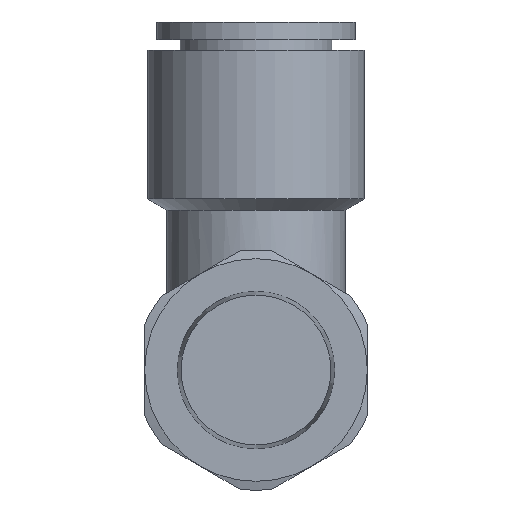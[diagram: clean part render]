
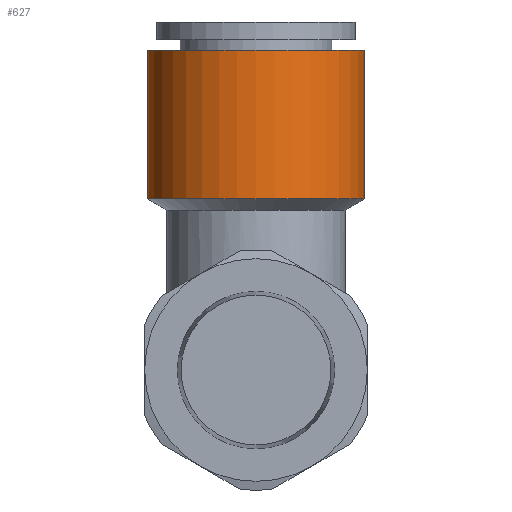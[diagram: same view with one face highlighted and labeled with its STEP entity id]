
A CAD part, front view. The second image highlights one B-rep face of the part: STEP entity #627.
In plain terms, the highlighted cylindrical face has radius 9.25 mm (diameter 18.5 mm), a full revolution.
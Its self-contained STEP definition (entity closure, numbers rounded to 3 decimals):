
#71=CYLINDRICAL_SURFACE('',#713,9.25);
#105=CIRCLE('',#712,9.25);
#106=CIRCLE('',#714,9.25);
#193=ORIENTED_EDGE('',*,*,#340,.F.);
#194=ORIENTED_EDGE('',*,*,#339,.T.);
#339=EDGE_CURVE('',#415,#415,#105,.T.);
#340=EDGE_CURVE('',#416,#416,#106,.T.);
#415=VERTEX_POINT('',#1123);
#416=VERTEX_POINT('',#1126);
#499=EDGE_LOOP('',(#193));
#500=EDGE_LOOP('',(#194));
#561=FACE_BOUND('',#499,.T.);
#562=FACE_BOUND('',#500,.T.);
#627=ADVANCED_FACE('',(#561,#562),#71,.T.);
#712=AXIS2_PLACEMENT_3D('',#1122,#852,#853);
#713=AXIS2_PLACEMENT_3D('',#1124,#854,#855);
#714=AXIS2_PLACEMENT_3D('',#1125,#856,#857);
#852=DIRECTION('',(0.,0.,-1.));
#853=DIRECTION('',(0.,1.,0.));
#854=DIRECTION('',(0.,0.,-1.));
#855=DIRECTION('',(0.,1.,0.));
#856=DIRECTION('',(0.,0.,-1.));
#857=DIRECTION('',(0.,1.,0.));
#1122=CARTESIAN_POINT('',(0.,29.,27.3));
#1123=CARTESIAN_POINT('',(0.,38.25,27.3));
#1124=CARTESIAN_POINT('',(0.,29.,0.));
#1125=CARTESIAN_POINT('',(0.,29.,14.6));
#1126=CARTESIAN_POINT('',(0.,38.25,14.6));
